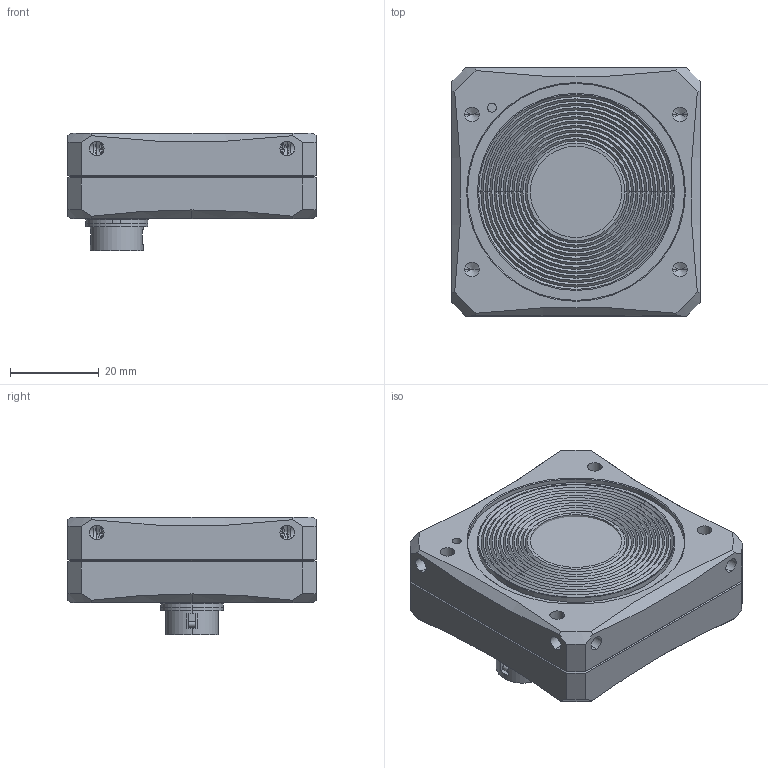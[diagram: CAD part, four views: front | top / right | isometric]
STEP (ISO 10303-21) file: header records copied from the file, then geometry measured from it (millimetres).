
FILE_DESCRIPTION (( 'STEP AP214' ), '1' );
FILE_NAME ('Celera_one.STEP', '2020-07-14T08:36:02', ( '' ), ( '' ), 'SwSTEP 2.0', 'SolidWorks 2019', '' );
FILE_SCHEMA (( 'AUTOMOTIVE_DESIGN' ));
Length unit declared in the file: millimetre
Products named in the file (8): Vite_M2; Front_Mec_shell; I-O; Filtro; Rear_mec_shell_single_usb; Usb; Light_pipe; Celera_one
Assembly tree (10 placements, depth 2):
  Celera_one
    Front_Mec_shell
    Rear_mec_shell_single_usb
    Usb
    I-O
    Filtro
    Vite_M2  x4
    Light_pipe
Bounding box: 56 x 56 x 26.6 mm (x, y, z)
Volume: 56375.5 mm3; surface area: 22371.8 mm2
Topology: 12 solids, 12 shells, 1074 faces, 2595 edges, 1579 vertices
Faces by surface type: plane 508, cylinder 326, cone 202, torus 28, bspline 10
Entity records: 35972 total; most frequent: CARTESIAN_POINT 6643, DIRECTION 5209, ORIENTED_EDGE 4918, EDGE_CURVE 2459, AXIS2_PLACEMENT_3D 1878, VERTEX_POINT 1513, LINE 1453, VECTOR 1453
